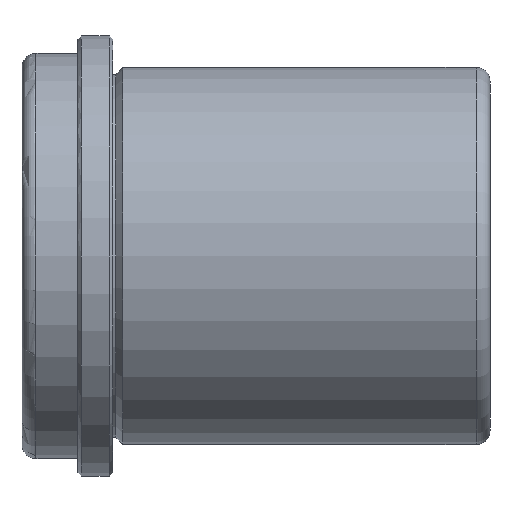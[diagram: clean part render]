
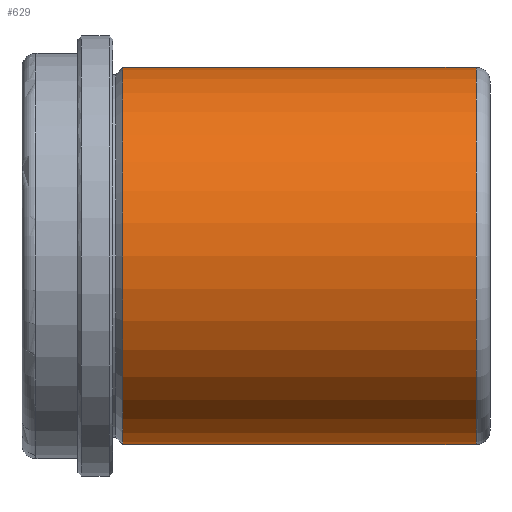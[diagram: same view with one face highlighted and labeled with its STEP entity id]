
A CAD part, front view. The second image highlights one B-rep face of the part: STEP entity #629.
In plain terms, the highlighted cylindrical face has radius 27 mm (diameter 54 mm), a partial arc.
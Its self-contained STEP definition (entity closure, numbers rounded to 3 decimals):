
#414=CARTESIAN_POINT('Line Origine',(54.,0.,27.)) ;
#418=CARTESIAN_POINT('Vertex',(52.,0.,27.)) ;
#420=CARTESIAN_POINT('Vertex',(1.414,0.,27.)) ;
#434=CARTESIAN_POINT('Vertex',(52.,0.,-27.)) ;
#437=CARTESIAN_POINT('Line Origine',(54.,0.,-27.)) ;
#441=CARTESIAN_POINT('Vertex',(1.414,0.,-27.)) ;
#592=CARTESIAN_POINT('Axis2P3D Location',(54.,0.,0.)) ;
#597=CARTESIAN_POINT('Axis2P3D Location',(52.,0.,0.)) ;
#601=CARTESIAN_POINT('Vertex',(52.,-27.,0.)) ;
#604=CARTESIAN_POINT('Axis2P3D Location',(52.,0.,0.)) ;
#609=CARTESIAN_POINT('Axis2P3D Location',(1.414,0.,0.)) ;
#613=CARTESIAN_POINT('Vertex',(1.414,-27.,0.)) ;
#616=CARTESIAN_POINT('Axis2P3D Location',(1.414,0.,0.)) ;
#415=DIRECTION('Vector Direction',(-1.,0.,0.)) ;
#438=DIRECTION('Vector Direction',(-1.,0.,0.)) ;
#593=DIRECTION('Axis2P3D Direction',(-1.,-0.,-0.)) ;
#594=DIRECTION('Axis2P3D XDirection',(0.,0.,-1.)) ;
#598=DIRECTION('Axis2P3D Direction',(-1.,-0.,-0.)) ;
#605=DIRECTION('Axis2P3D Direction',(-1.,-0.,-0.)) ;
#610=DIRECTION('Axis2P3D Direction',(-1.,-0.,-0.)) ;
#617=DIRECTION('Axis2P3D Direction',(-1.,-0.,-0.)) ;
#595=AXIS2_PLACEMENT_3D('Cylinder Axis2P3D',#592,#593,#594) ;
#599=AXIS2_PLACEMENT_3D('Circle Axis2P3D',#597,#598,$) ;
#606=AXIS2_PLACEMENT_3D('Circle Axis2P3D',#604,#605,$) ;
#611=AXIS2_PLACEMENT_3D('Circle Axis2P3D',#609,#610,$) ;
#618=AXIS2_PLACEMENT_3D('Circle Axis2P3D',#616,#617,$) ;
#622=ORIENTED_EDGE('',*,*,#443,.T.) ;
#623=ORIENTED_EDGE('',*,*,#603,.F.) ;
#624=ORIENTED_EDGE('',*,*,#608,.F.) ;
#625=ORIENTED_EDGE('',*,*,#422,.T.) ;
#626=ORIENTED_EDGE('',*,*,#615,.T.) ;
#627=ORIENTED_EDGE('',*,*,#620,.T.) ;
#416=VECTOR('Line Direction',#415,1.) ;
#439=VECTOR('Line Direction',#438,1.) ;
#629=ADVANCED_FACE('FAMO-SF1-B42 x 67',(#628),#596,.T.) ;
#600=CIRCLE('generated circle',#599,27.) ;
#607=CIRCLE('generated circle',#606,27.) ;
#612=CIRCLE('generated circle',#611,27.) ;
#619=CIRCLE('generated circle',#618,27.) ;
#596=CYLINDRICAL_SURFACE('generated cylinder',#595,27.) ;
#422=EDGE_CURVE('',#419,#421,#417,.T.) ;
#443=EDGE_CURVE('',#442,#435,#440,.F.) ;
#603=EDGE_CURVE('',#602,#435,#600,.F.) ;
#608=EDGE_CURVE('',#419,#602,#607,.F.) ;
#615=EDGE_CURVE('',#421,#614,#612,.F.) ;
#620=EDGE_CURVE('',#614,#442,#619,.F.) ;
#621=EDGE_LOOP('',(#622,#623,#624,#625,#626,#627)) ;
#628=FACE_OUTER_BOUND('',#621,.T.) ;
#417=LINE('Line',#414,#416) ;
#440=LINE('Line',#437,#439) ;
#419=VERTEX_POINT('',#418) ;
#421=VERTEX_POINT('',#420) ;
#435=VERTEX_POINT('',#434) ;
#442=VERTEX_POINT('',#441) ;
#602=VERTEX_POINT('',#601) ;
#614=VERTEX_POINT('',#613) ;
